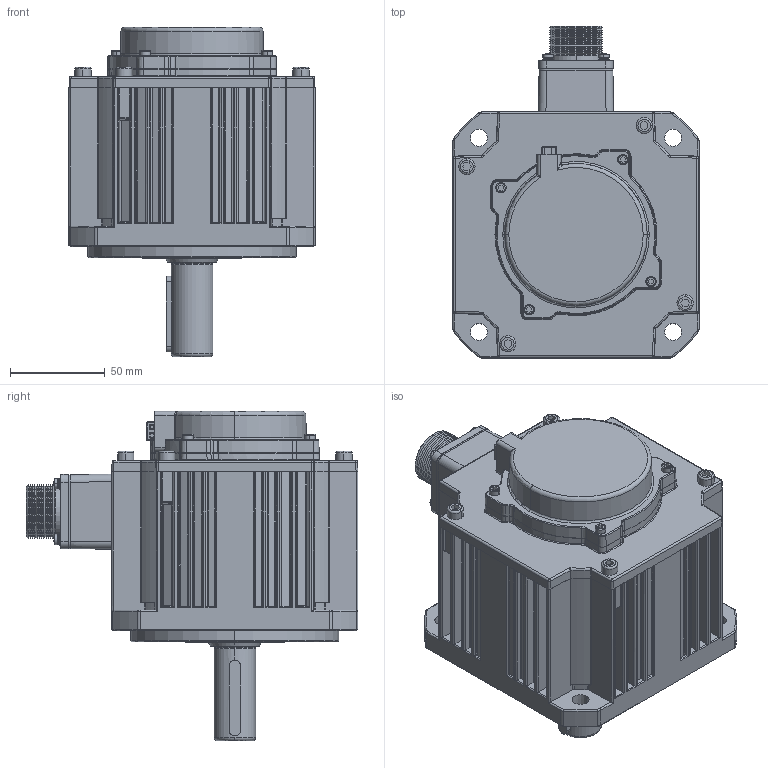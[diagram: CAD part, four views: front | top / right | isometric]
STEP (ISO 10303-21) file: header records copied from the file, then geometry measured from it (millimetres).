
FILE_DESCRIPTION (( 'STEP AP203' ), '1' );
FILE_NAME ('G3系列130伺服-850W电机三维图-三竹插拔式.STEP', '2023-09-27T08:55:16', ( '微软用户' ), ( '微软中国' ), 'SwSTEP 2.0', 'SolidWorks 2016', '' );
FILE_SCHEMA (( 'CONFIG_CONTROL_DESIGN' ));
Products named in the file (1): G3系列130伺服-850W电机三维图-三竹插拔式
Bounding box: 130 x 175.3 x 174 mm (x, y, z)
Surface area: 250202.9 mm2 (no closed solid volume)
Topology: 0 solids, 21 shells, 3563 faces, 9174 edges, 5741 vertices
Faces by surface type: plane 1530, cylinder 742, bspline 561, cone 464, torus 199, sphere 67
Entity records: 125629 total; most frequent: CARTESIAN_POINT 42806, ORIENTED_EDGE 18140, DIRECTION 15933, EDGE_CURVE 9084, VERTEX_POINT 5729, AXIS2_PLACEMENT_3D 5348, LINE 5237, VECTOR 5237
